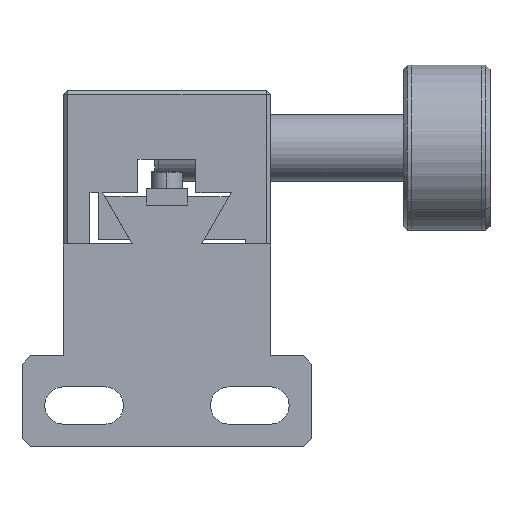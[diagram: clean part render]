
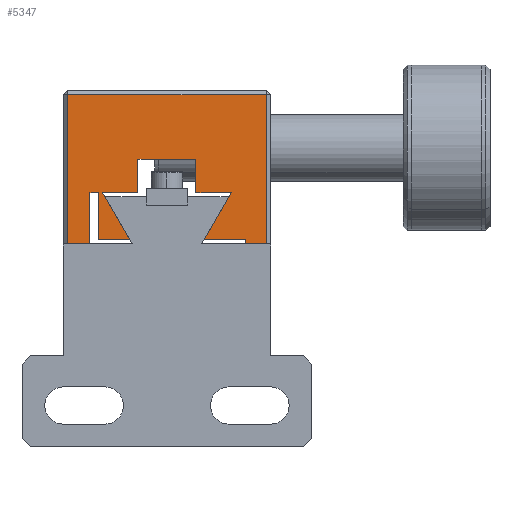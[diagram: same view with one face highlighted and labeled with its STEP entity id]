
A CAD part, left-side view. The second image highlights one B-rep face of the part: STEP entity #5347.
In plain terms, the highlighted planar face has unit normal (-1, 0, 0) as drawn and (0, 0, 1) by its records, which use the part's own axes.
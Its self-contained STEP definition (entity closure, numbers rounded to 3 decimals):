
#45 = CARTESIAN_POINT ( 'NONE',  ( 20.791, 12.3, 42. ) ) ;
#292 = ORIENTED_EDGE ( 'NONE', *, *, #1636, .F. ) ;
#316 = EDGE_CURVE ( 'NONE', #14754, #10327, #14467, .T. ) ;
#494 = CARTESIAN_POINT ( 'NONE',  ( 24.5, 18.5, 42. ) ) ;
#526 = CARTESIAN_POINT ( 'NONE',  ( 24.5, 18.5, 42. ) ) ;
#573 = VERTEX_POINT ( 'NONE', #601 ) ;
#601 = CARTESIAN_POINT ( 'NONE',  ( 9., 12.3, 42. ) ) ;
#641 = EDGE_CURVE ( 'NONE', #13762, #7716, #9312, .T. ) ;
#666 = EDGE_CURVE ( 'NONE', #12753, #5951, #15715, .T. ) ;
#759 = EDGE_CURVE ( 'NONE', #13762, #5372, #14000, .T. ) ;
#834 = DIRECTION ( 'NONE',  ( 1., 0., 0. ) ) ;
#955 = CARTESIAN_POINT ( 'NONE',  ( 0., 12.3, 42. ) ) ;
#1283 = CARTESIAN_POINT ( 'NONE',  ( 8., 18., 42. ) ) ;
#1345 = CARTESIAN_POINT ( 'NONE',  ( 0., 12.3, 42. ) ) ;
#1406 = VECTOR ( 'NONE', #14711, 1000. ) ;
#1626 = CARTESIAN_POINT ( 'NONE',  ( 20.291, 12.3, 42. ) ) ;
#1636 = EDGE_CURVE ( 'NONE', #8075, #5372, #17182, .T. ) ;
#1759 = LINE ( 'NONE', #4216, #12316 ) ;
#2227 = VERTEX_POINT ( 'NONE', #10425 ) ;
#2334 = EDGE_CURVE ( 'NONE', #17652, #7565, #5117, .T. ) ;
#2421 = DIRECTION ( 'NONE',  ( -0.5, -0.866, 0. ) ) ;
#2442 = CARTESIAN_POINT ( 'NONE',  ( 0., 18., 42. ) ) ;
#2516 = VERTEX_POINT ( 'NONE', #526 ) ;
#2616 = CARTESIAN_POINT ( 'NONE',  ( 24.5, 0.5, 42. ) ) ;
#2696 = CARTESIAN_POINT ( 'NONE',  ( 16., 18.5, 42. ) ) ;
#3203 = ORIENTED_EDGE ( 'NONE', *, *, #2334, .T. ) ;
#3414 = CARTESIAN_POINT ( 'NONE',  ( 3., 18., 42. ) ) ;
#3458 = VECTOR ( 'NONE', #4282, 1000. ) ;
#3460 = ORIENTED_EDGE ( 'NONE', *, *, #666, .F. ) ;
#3666 = ORIENTED_EDGE ( 'NONE', *, *, #641, .F. ) ;
#3737 = CARTESIAN_POINT ( 'NONE',  ( 8., 18., 42. ) ) ;
#3742 = VERTEX_POINT ( 'NONE', #12708 ) ;
#3744 = VECTOR ( 'NONE', #11010, 1000. ) ;
#3768 = LINE ( 'NONE', #6644, #7011 ) ;
#3839 = ORIENTED_EDGE ( 'NONE', *, *, #17589, .F. ) ;
#3942 = DIRECTION ( 'NONE',  ( 0., -1., 0. ) ) ;
#4021 = CARTESIAN_POINT ( 'NONE',  ( 9., 8.3, 42. ) ) ;
#4216 = CARTESIAN_POINT ( 'NONE',  ( 0., 18., 42. ) ) ;
#4282 = DIRECTION ( 'NONE',  ( 1., 0., 0. ) ) ;
#4326 = CARTESIAN_POINT ( 'NONE',  ( 0., 8.3, 42. ) ) ;
#4409 = DIRECTION ( 'NONE',  ( 0., 1., 0. ) ) ;
#4530 = EDGE_CURVE ( 'NONE', #15204, #573, #11567, .T. ) ;
#4698 = VECTOR ( 'NONE', #10007, 1000. ) ;
#5003 = LINE ( 'NONE', #5205, #15534 ) ;
#5117 = LINE ( 'NONE', #12639, #4698 ) ;
#5121 = EDGE_CURVE ( 'NONE', #7716, #15204, #12170, .T. ) ;
#5187 = VECTOR ( 'NONE', #11169, 1000. ) ;
#5205 = CARTESIAN_POINT ( 'NONE',  ( 21.791, 18.5, 42. ) ) ;
#5347 = ADVANCED_FACE ( 'NONE', ( #8296 ), #12744, .F. ) ;
#5372 = VERTEX_POINT ( 'NONE', #11710 ) ;
#5439 = CARTESIAN_POINT ( 'NONE',  ( 20.791, 18.5, 42. ) ) ;
#5530 = VECTOR ( 'NONE', #11586, 1000. ) ;
#5559 = AXIS2_PLACEMENT_3D ( 'NONE', #12678, #12557, #12414 ) ;
#5806 = ORIENTED_EDGE ( 'NONE', *, *, #14784, .F. ) ;
#5838 = LINE ( 'NONE', #494, #16809 ) ;
#5951 = VERTEX_POINT ( 'NONE', #10423 ) ;
#6249 = VERTEX_POINT ( 'NONE', #13321 ) ;
#6388 = CARTESIAN_POINT ( 'NONE',  ( 16., 12.3, 42. ) ) ;
#6422 = CARTESIAN_POINT ( 'NONE',  ( 0., 18.5, 42. ) ) ;
#6592 = DIRECTION ( 'NONE',  ( 0., 1., 0. ) ) ;
#6644 = CARTESIAN_POINT ( 'NONE',  ( 20.291, 12.3, 42. ) ) ;
#6724 = CARTESIAN_POINT ( 'NONE',  ( 3., 18.5, 42. ) ) ;
#7011 = VECTOR ( 'NONE', #17611, 1000. ) ;
#7058 = ORIENTED_EDGE ( 'NONE', *, *, #12403, .F. ) ;
#7351 = LINE ( 'NONE', #45, #14236 ) ;
#7471 = VECTOR ( 'NONE', #834, 1000. ) ;
#7565 = VERTEX_POINT ( 'NONE', #2616 ) ;
#7716 = VERTEX_POINT ( 'NONE', #1283 ) ;
#7761 = EDGE_CURVE ( 'NONE', #3742, #5951, #7351, .T. ) ;
#8075 = VERTEX_POINT ( 'NONE', #17247 ) ;
#8296 = FACE_OUTER_BOUND ( 'NONE', #17514, .T. ) ;
#8527 = VECTOR ( 'NONE', #2421, 1000. ) ;
#8543 = ORIENTED_EDGE ( 'NONE', *, *, #316, .F. ) ;
#8759 = DIRECTION ( 'NONE',  ( 0., -1., 0. ) ) ;
#8953 = ORIENTED_EDGE ( 'NONE', *, *, #759, .T. ) ;
#9046 = VERTEX_POINT ( 'NONE', #1626 ) ;
#9192 = CARTESIAN_POINT ( 'NONE',  ( 9., 18.5, 42. ) ) ;
#9198 = LINE ( 'NONE', #9192, #1406 ) ;
#9312 = LINE ( 'NONE', #2442, #5187 ) ;
#9360 = VECTOR ( 'NONE', #10972, 1000. ) ;
#9743 = ORIENTED_EDGE ( 'NONE', *, *, #15892, .F. ) ;
#10007 = DIRECTION ( 'NONE',  ( 1., 0., 0. ) ) ;
#10327 = VERTEX_POINT ( 'NONE', #12264 ) ;
#10423 = CARTESIAN_POINT ( 'NONE',  ( 20.791, 12.3, 42. ) ) ;
#10425 = CARTESIAN_POINT ( 'NONE',  ( 17., 18., 42. ) ) ;
#10469 = LINE ( 'NONE', #6422, #17306 ) ;
#10675 = LINE ( 'NONE', #1345, #3744 ) ;
#10972 = DIRECTION ( 'NONE',  ( 0., 1., 0. ) ) ;
#11010 = DIRECTION ( 'NONE',  ( 1., 0., 0. ) ) ;
#11087 = DIRECTION ( 'NONE',  ( 1., 0., 0. ) ) ;
#11169 = DIRECTION ( 'NONE',  ( 1., 0., 0. ) ) ;
#11567 = LINE ( 'NONE', #955, #7471 ) ;
#11586 = DIRECTION ( 'NONE',  ( 0., 1., 0. ) ) ;
#11710 = CARTESIAN_POINT ( 'NONE',  ( 3., 18.5, 42. ) ) ;
#12170 = LINE ( 'NONE', #3737, #8527 ) ;
#12264 = CARTESIAN_POINT ( 'NONE',  ( 16., 8.3, 42. ) ) ;
#12316 = VECTOR ( 'NONE', #11087, 1000. ) ;
#12346 = DIRECTION ( 'NONE',  ( -1., 0., 0. ) ) ;
#12403 = EDGE_CURVE ( 'NONE', #17652, #8075, #16938, .T. ) ;
#12414 = DIRECTION ( 'NONE',  ( -1., 0., 0. ) ) ;
#12533 = VERTEX_POINT ( 'NONE', #6388 ) ;
#12557 = DIRECTION ( 'NONE',  ( 0., 0., -1. ) ) ;
#12639 = CARTESIAN_POINT ( 'NONE',  ( 0., 0.5, 42. ) ) ;
#12678 = CARTESIAN_POINT ( 'NONE',  ( 0., 18.5, 42. ) ) ;
#12708 = CARTESIAN_POINT ( 'NONE',  ( 21.791, 12.3, 42. ) ) ;
#12744 = PLANE ( 'NONE',  #5559 ) ;
#12753 = VERTEX_POINT ( 'NONE', #17832 ) ;
#13048 = ORIENTED_EDGE ( 'NONE', *, *, #7761, .T. ) ;
#13089 = ORIENTED_EDGE ( 'NONE', *, *, #16080, .F. ) ;
#13290 = EDGE_CURVE ( 'NONE', #573, #14754, #9198, .T. ) ;
#13295 = CARTESIAN_POINT ( 'NONE',  ( 4.709, 12.3, 42. ) ) ;
#13301 = DIRECTION ( 'NONE',  ( 1., 0., 0. ) ) ;
#13321 = CARTESIAN_POINT ( 'NONE',  ( 21.791, 18.5, 42. ) ) ;
#13374 = EDGE_CURVE ( 'NONE', #9046, #2227, #3768, .T. ) ;
#13555 = VECTOR ( 'NONE', #15109, 1000. ) ;
#13762 = VERTEX_POINT ( 'NONE', #3414 ) ;
#13851 = ORIENTED_EDGE ( 'NONE', *, *, #17242, .F. ) ;
#13973 = ORIENTED_EDGE ( 'NONE', *, *, #17240, .F. ) ;
#14000 = LINE ( 'NONE', #6724, #17211 ) ;
#14236 = VECTOR ( 'NONE', #12346, 1000. ) ;
#14331 = ORIENTED_EDGE ( 'NONE', *, *, #13290, .F. ) ;
#14467 = LINE ( 'NONE', #4326, #3458 ) ;
#14525 = CARTESIAN_POINT ( 'NONE',  ( 0.5, 0.5, 42. ) ) ;
#14711 = DIRECTION ( 'NONE',  ( 0., -1., 0. ) ) ;
#14754 = VERTEX_POINT ( 'NONE', #4021 ) ;
#14784 = EDGE_CURVE ( 'NONE', #10327, #12533, #15757, .T. ) ;
#15032 = ORIENTED_EDGE ( 'NONE', *, *, #4530, .F. ) ;
#15109 = DIRECTION ( 'NONE',  ( 1., 0., 0. ) ) ;
#15204 = VERTEX_POINT ( 'NONE', #13295 ) ;
#15228 = CARTESIAN_POINT ( 'NONE',  ( 0., 18.5, 42. ) ) ;
#15292 = VECTOR ( 'NONE', #3942, 1000. ) ;
#15534 = VECTOR ( 'NONE', #6592, 1000. ) ;
#15715 = LINE ( 'NONE', #5439, #15292 ) ;
#15757 = LINE ( 'NONE', #2696, #9360 ) ;
#15892 = EDGE_CURVE ( 'NONE', #6249, #2516, #10469, .T. ) ;
#16080 = EDGE_CURVE ( 'NONE', #12533, #9046, #10675, .T. ) ;
#16809 = VECTOR ( 'NONE', #8759, 1000. ) ;
#16938 = LINE ( 'NONE', #17026, #5530 ) ;
#17026 = CARTESIAN_POINT ( 'NONE',  ( 0.5, 18.5, 42. ) ) ;
#17182 = LINE ( 'NONE', #15228, #13555 ) ;
#17205 = ORIENTED_EDGE ( 'NONE', *, *, #5121, .F. ) ;
#17211 = VECTOR ( 'NONE', #4409, 1000. ) ;
#17240 = EDGE_CURVE ( 'NONE', #2227, #12753, #1759, .T. ) ;
#17242 = EDGE_CURVE ( 'NONE', #3742, #6249, #5003, .T. ) ;
#17247 = CARTESIAN_POINT ( 'NONE',  ( 0.5, 18.5, 42. ) ) ;
#17306 = VECTOR ( 'NONE', #13301, 1000. ) ;
#17514 = EDGE_LOOP ( 'NONE', ( #7058, #3203, #3839, #9743, #13851, #13048, #3460, #13973, #17797, #13089, #5806, #8543, #14331, #15032, #17205, #3666, #8953, #292 ) ) ;
#17589 = EDGE_CURVE ( 'NONE', #2516, #7565, #5838, .T. ) ;
#17611 = DIRECTION ( 'NONE',  ( -0.5, 0.866, 0. ) ) ;
#17652 = VERTEX_POINT ( 'NONE', #14525 ) ;
#17797 = ORIENTED_EDGE ( 'NONE', *, *, #13374, .F. ) ;
#17832 = CARTESIAN_POINT ( 'NONE',  ( 20.791, 18., 42. ) ) ;
